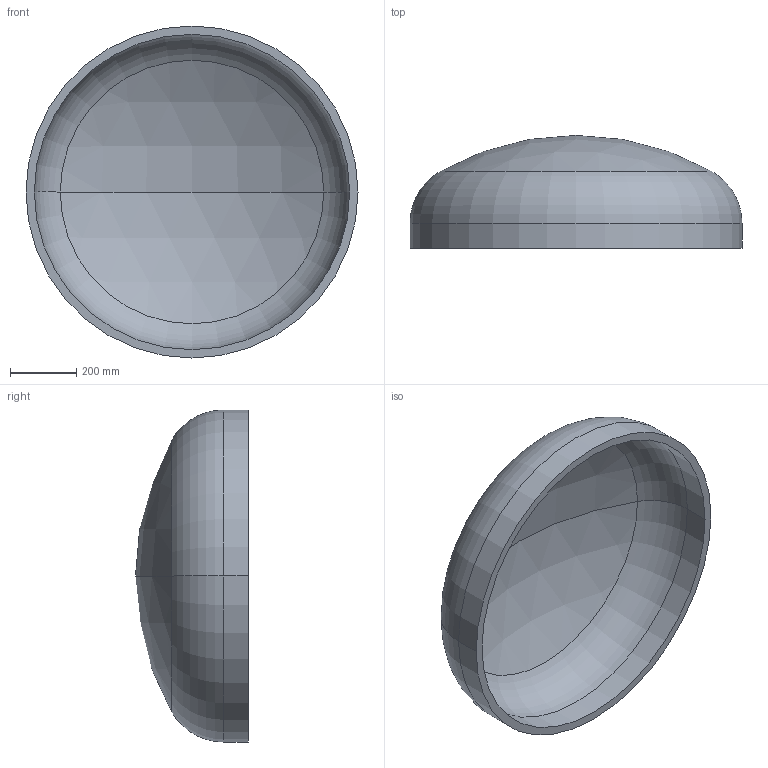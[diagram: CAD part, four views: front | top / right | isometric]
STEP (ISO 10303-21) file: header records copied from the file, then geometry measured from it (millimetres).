
FILE_DESCRIPTION (( 'STEP AP203' ), '1' );
FILE_NAME ('DIN 28013 Korbbogenform_-_Boden DIN 28013 - 1000 x 75 - I - s=25.step', '2016-07-01T08:45:33', ( '' ), ( '' ), 'SwSTEP 2.0', 'SolidWorks 2013', '' );
FILE_SCHEMA (( 'CONFIG_CONTROL_DESIGN' ));
Length unit declared in the file: millimetre
Products named in the file (1): DIN 28013 Korbbogenform_-_Boden DIN 28013 - 1000 x 75 - I - s=25
Bounding box: 1000 x 339.98 x 1000 mm (x, y, z)
Volume: 32094236.1 mm3; surface area: 2645423.4 mm2
Topology: 1 solids, 1 shells, 13 faces, 24 edges, 14 vertices
Faces by surface type: torus 4, cylinder 4, sphere 4, plane 1
Entity records: 407 total; most frequent: DIRECTION 72, CARTESIAN_POINT 52, ORIENTED_EDGE 48, AXIS2_PLACEMENT_3D 34, EDGE_CURVE 24, CIRCLE 20, VERTEX_POINT 14, EDGE_LOOP 14
